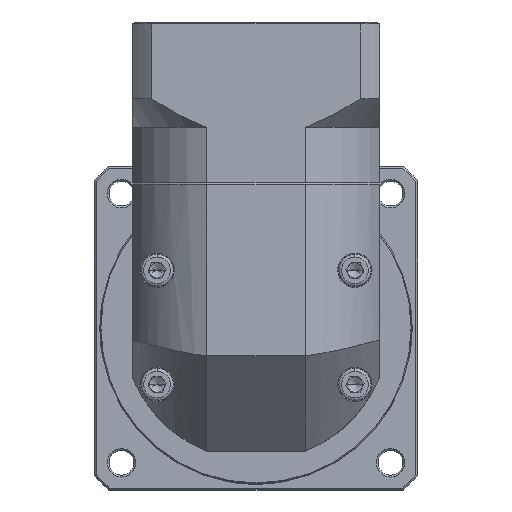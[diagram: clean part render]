
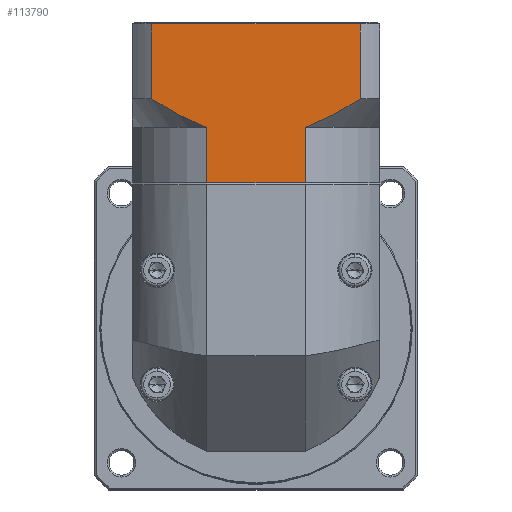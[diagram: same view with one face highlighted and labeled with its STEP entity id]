
A CAD part, top view. The second image highlights one B-rep face of the part: STEP entity #113790.
In plain terms, the highlighted planar face has unit normal (0, 0, 1).
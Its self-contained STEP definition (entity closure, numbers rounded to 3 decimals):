
#4059 = CARTESIAN_POINT ( 'NONE',  ( -45.253, 84.324, 37.988 ) ) ;
#4663 = VECTOR ( 'NONE', #89304, 1000. ) ;
#4687 = EDGE_LOOP ( 'NONE', ( #16968, #53488, #20548, #92463, #97980, #111912, #13494, #13257 ) ) ;
#7835 = CARTESIAN_POINT ( 'NONE',  ( -86.038, 81.759, 37.988 ) ) ;
#10923 = LINE ( 'NONE', #110848, #120706 ) ;
#13058 = EDGE_CURVE ( 'NONE', #119211, #59738, #45638, .T. ) ;
#13257 = ORIENTED_EDGE ( 'NONE', *, *, #76069, .T. ) ;
#13454 = EDGE_CURVE ( 'NONE', #119211, #49284, #15196, .T. ) ;
#13494 = ORIENTED_EDGE ( 'NONE', *, *, #59833, .F. ) ;
#15196 = B_SPLINE_CURVE_WITH_KNOTS ( 'NONE', 3,
 ( #43768, #86067, #33015, #34090, #68345, #7835, #69130, #113199 ),
 .UNSPECIFIED., .F., .F.,
 ( 4, 2, 2, 4 ),
 ( 0.058, 0.062, 0.066, 0.074 ),
 .UNSPECIFIED. ) ;
#16968 = ORIENTED_EDGE ( 'NONE', *, *, #55066, .F. ) ;
#18085 = CARTESIAN_POINT ( 'NONE',  ( -55.067, 79.673, 37.988 ) ) ;
#19475 = PLANE ( 'NONE',  #120457 ) ;
#20420 = CARTESIAN_POINT ( 'NONE',  ( -100.557, 107.373, 37.988 ) ) ;
#20548 = ORIENTED_EDGE ( 'NONE', *, *, #13058, .F. ) ;
#25060 = EDGE_CURVE ( 'NONE', #39975, #49284, #66218, .T. ) ;
#26968 = CARTESIAN_POINT ( 'NONE',  ( -40.671, 79.673, 37.988 ) ) ;
#33015 = CARTESIAN_POINT ( 'NONE',  ( -93.154, 85.724, 37.988 ) ) ;
#33052 = CARTESIAN_POINT ( 'NONE',  ( -55.067, 65.173, 37.988 ) ) ;
#34090 = CARTESIAN_POINT ( 'NONE',  ( -90.819, 84.34, 37.988 ) ) ;
#39975 = VERTEX_POINT ( 'NONE', #51970 ) ;
#43768 = CARTESIAN_POINT ( 'NONE',  ( -95.443, 87.173, 37.988 ) ) ;
#45638 = LINE ( 'NONE', #66213, #123710 ) ;
#46902 = CARTESIAN_POINT ( 'NONE',  ( -40.671, 87.173, 37.988 ) ) ;
#49284 = VERTEX_POINT ( 'NONE', #108324 ) ;
#51057 = CARTESIAN_POINT ( 'NONE',  ( -55.067, 79.673, 37.988 ) ) ;
#51970 = CARTESIAN_POINT ( 'NONE',  ( -81.048, 65.173, 37.988 ) ) ;
#53488 = ORIENTED_EDGE ( 'NONE', *, *, #76490, .T. ) ;
#55066 = EDGE_CURVE ( 'NONE', #131193, #97611, #92139, .T. ) ;
#56655 = CARTESIAN_POINT ( 'NONE',  ( -40.671, 87.173, 37.988 ) ) ;
#56969 = CARTESIAN_POINT ( 'NONE',  ( -100.557, 65.173, 37.988 ) ) ;
#57237 = CARTESIAN_POINT ( 'NONE',  ( -81.048, 79.673, 37.988 ) ) ;
#59738 = VERTEX_POINT ( 'NONE', #70157 ) ;
#59833 = EDGE_CURVE ( 'NONE', #106357, #96661, #116721, .T. ) ;
#62260 = DIRECTION ( 'NONE',  ( 0., 1., 0. ) ) ;
#65310 = VECTOR ( 'NONE', #121985, 1000. ) ;
#66213 = CARTESIAN_POINT ( 'NONE',  ( -95.443, 79.673, 37.988 ) ) ;
#66218 = LINE ( 'NONE', #57237, #4663 ) ;
#67197 = FACE_OUTER_BOUND ( 'NONE', #4687, .T. ) ;
#67934 = DIRECTION ( 'NONE',  ( 0., -1., 0. ) ) ;
#68345 = CARTESIAN_POINT ( 'NONE',  ( -89.633, 83.67, 37.988 ) ) ;
#68728 = CARTESIAN_POINT ( 'NONE',  ( -42.939, 85.711, 37.988 ) ) ;
#69130 = CARTESIAN_POINT ( 'NONE',  ( -83.586, 80.615, 37.988 ) ) ;
#70157 = CARTESIAN_POINT ( 'NONE',  ( -95.443, 106.873, 37.988 ) ) ;
#76069 = EDGE_CURVE ( 'NONE', #106357, #97611, #92838, .T. ) ;
#76490 = EDGE_CURVE ( 'NONE', #131193, #59738, #10923, .T. ) ;
#80448 = EDGE_CURVE ( 'NONE', #39975, #96661, #95348, .T. ) ;
#82747 = CARTESIAN_POINT ( 'NONE',  ( -40.671, 106.873, 37.988 ) ) ;
#86067 = CARTESIAN_POINT ( 'NONE',  ( -94.305, 86.439, 37.988 ) ) ;
#89304 = DIRECTION ( 'NONE',  ( 0., 1., 0. ) ) ;
#91016 = CARTESIAN_POINT ( 'NONE',  ( -52.524, 80.689, 37.988 ) ) ;
#92139 = LINE ( 'NONE', #26968, #97101 ) ;
#92463 = ORIENTED_EDGE ( 'NONE', *, *, #13454, .T. ) ;
#92838 = B_SPLINE_CURVE_WITH_KNOTS ( 'NONE', 3,
 ( #120740, #122110, #110558, #91016, #122581, #101265, #131376, #4059, #68728, #46902 ),
 .UNSPECIFIED., .F., .F.,
 ( 4, 2, 2, 2, 4 ),
 ( 0.101, 0.103, 0.105, 0.109, 0.117 ),
 .UNSPECIFIED. ) ;
#93205 = DIRECTION ( 'NONE',  ( -1., 0., 0. ) ) ;
#95348 = LINE ( 'NONE', #56969, #65310 ) ;
#96661 = VERTEX_POINT ( 'NONE', #33052 ) ;
#97101 = VECTOR ( 'NONE', #67934, 1000. ) ;
#97611 = VERTEX_POINT ( 'NONE', #56655 ) ;
#97980 = ORIENTED_EDGE ( 'NONE', *, *, #25060, .F. ) ;
#101043 = DIRECTION ( 'NONE',  ( 0., 1., 0. ) ) ;
#101265 = CARTESIAN_POINT ( 'NONE',  ( -50.047, 81.814, 37.988 ) ) ;
#105930 = DIRECTION ( 'NONE',  ( 0., 0., -1. ) ) ;
#106357 = VERTEX_POINT ( 'NONE', #18085 ) ;
#108324 = CARTESIAN_POINT ( 'NONE',  ( -81.048, 79.673, 37.988 ) ) ;
#110558 = CARTESIAN_POINT ( 'NONE',  ( -53.786, 80.164, 37.988 ) ) ;
#110848 = CARTESIAN_POINT ( 'NONE',  ( -100.557, 106.873, 37.988 ) ) ;
#111912 = ORIENTED_EDGE ( 'NONE', *, *, #80448, .T. ) ;
#113199 = CARTESIAN_POINT ( 'NONE',  ( -81.048, 79.673, 37.988 ) ) ;
#113790 = ADVANCED_FACE ( 'NONE', ( #67197 ), #19475, .F. ) ;
#114231 = DIRECTION ( 'NONE',  ( 0., -1., 0. ) ) ;
#116721 = LINE ( 'NONE', #51057, #131633 ) ;
#117141 = CARTESIAN_POINT ( 'NONE',  ( -95.443, 87.173, 37.988 ) ) ;
#119211 = VERTEX_POINT ( 'NONE', #117141 ) ;
#120457 = AXIS2_PLACEMENT_3D ( 'NONE', #20420, #105930, #62260 ) ;
#120706 = VECTOR ( 'NONE', #93205, 1000. ) ;
#120740 = CARTESIAN_POINT ( 'NONE',  ( -55.067, 79.673, 37.988 ) ) ;
#121985 = DIRECTION ( 'NONE',  ( 1., 0., 0. ) ) ;
#122110 = CARTESIAN_POINT ( 'NONE',  ( -54.425, 79.911, 37.988 ) ) ;
#122581 = CARTESIAN_POINT ( 'NONE',  ( -51.9, 80.963, 37.988 ) ) ;
#123710 = VECTOR ( 'NONE', #101043, 1000. ) ;
#131193 = VERTEX_POINT ( 'NONE', #82747 ) ;
#131376 = CARTESIAN_POINT ( 'NONE',  ( -48.834, 82.419, 37.988 ) ) ;
#131633 = VECTOR ( 'NONE', #114231, 1000. ) ;
